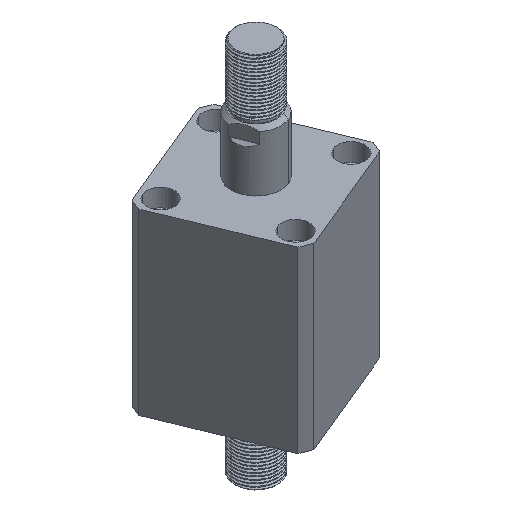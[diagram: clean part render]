
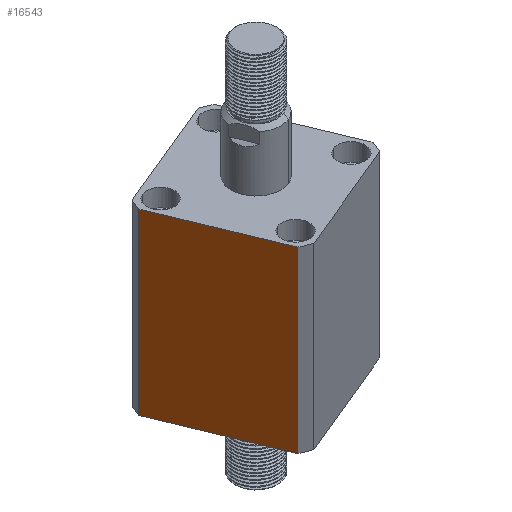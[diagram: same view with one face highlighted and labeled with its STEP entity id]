
A CAD part, isometric view. The second image highlights one B-rep face of the part: STEP entity #16543.
In plain terms, the highlighted planar face has unit normal (-0.924, -0.383, 0) as drawn and (0, -1, 0) by its records, which use the part's own axes.
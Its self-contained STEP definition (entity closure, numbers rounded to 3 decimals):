
#61 = ORIENTED_EDGE ( 'NONE', *, *, #9001, .F. ) ;
#881 = VECTOR ( 'NONE', #10785, 1000. ) ;
#1691 = VECTOR ( 'NONE', #9318, 1000. ) ;
#1957 = ORIENTED_EDGE ( 'NONE', *, *, #16268, .F. ) ;
#2281 = CARTESIAN_POINT ( 'NONE',  ( -35., -35., 90. ) ) ;
#2495 = VECTOR ( 'NONE', #15826, 1000. ) ;
#2956 = EDGE_CURVE ( 'NONE', #17320, #14219, #11433, .T. ) ;
#3420 = ORIENTED_EDGE ( 'NONE', *, *, #2956, .T. ) ;
#4499 = LINE ( 'NONE', #14852, #881 ) ;
#5451 = CARTESIAN_POINT ( 'NONE',  ( -35., -35., 0. ) ) ;
#5510 = DIRECTION ( 'NONE',  ( 0., 1., 0. ) ) ;
#5588 = DIRECTION ( 'NONE',  ( 1., 0., 0. ) ) ;
#6091 = LINE ( 'NONE', #2281, #2495 ) ;
#6199 = ORIENTED_EDGE ( 'NONE', *, *, #6333, .F. ) ;
#6333 = EDGE_CURVE ( 'NONE', #17320, #14410, #4499, .T. ) ;
#7046 = CARTESIAN_POINT ( 'NONE',  ( -35., -35., 90. ) ) ;
#7234 = CARTESIAN_POINT ( 'NONE',  ( -30.615, -35., 90. ) ) ;
#7369 = VECTOR ( 'NONE', #5588, 1000. ) ;
#8418 = DIRECTION ( 'NONE',  ( 0., 0., 1. ) ) ;
#8549 = CARTESIAN_POINT ( 'NONE',  ( 30.615, -35., 90. ) ) ;
#8883 = LINE ( 'NONE', #14686, #1691 ) ;
#9001 = EDGE_CURVE ( 'NONE', #14410, #10975, #6091, .T. ) ;
#9064 = EDGE_LOOP ( 'NONE', ( #6199, #3420, #1957, #61 ) ) ;
#9318 = DIRECTION ( 'NONE',  ( 0., 0., -1. ) ) ;
#9322 = AXIS2_PLACEMENT_3D ( 'NONE', #7046, #5510, #8418 ) ;
#9739 = PLANE ( 'NONE',  #9322 ) ;
#10414 = CARTESIAN_POINT ( 'NONE',  ( -30.615, -35., 0. ) ) ;
#10785 = DIRECTION ( 'NONE',  ( 0., 0., 1. ) ) ;
#10975 = VERTEX_POINT ( 'NONE', #8549 ) ;
#11433 = LINE ( 'NONE', #5451, #7369 ) ;
#14022 = FACE_OUTER_BOUND ( 'NONE', #9064, .T. ) ;
#14219 = VERTEX_POINT ( 'NONE', #16656 ) ;
#14410 = VERTEX_POINT ( 'NONE', #7234 ) ;
#14686 = CARTESIAN_POINT ( 'NONE',  ( 30.615, -35., -210. ) ) ;
#14852 = CARTESIAN_POINT ( 'NONE',  ( -30.615, -35., -210. ) ) ;
#15826 = DIRECTION ( 'NONE',  ( 1., 0., 0. ) ) ;
#16268 = EDGE_CURVE ( 'NONE', #10975, #14219, #8883, .T. ) ;
#16543 = ADVANCED_FACE ( 'NONE', ( #14022 ), #9739, .F. ) ;
#16656 = CARTESIAN_POINT ( 'NONE',  ( 30.615, -35., 0. ) ) ;
#17320 = VERTEX_POINT ( 'NONE', #10414 ) ;
